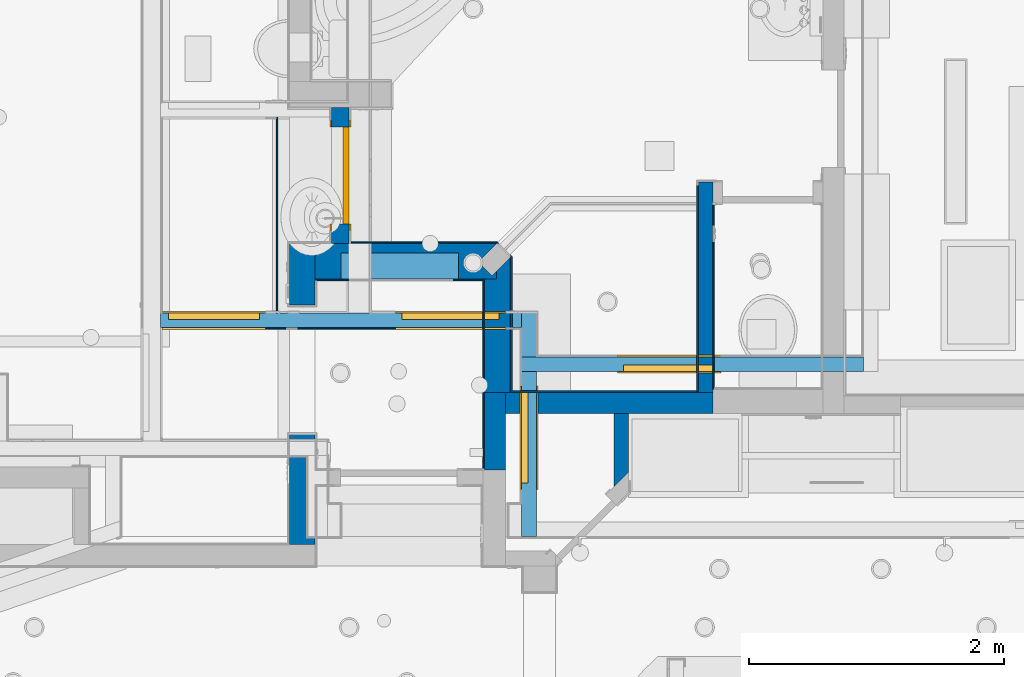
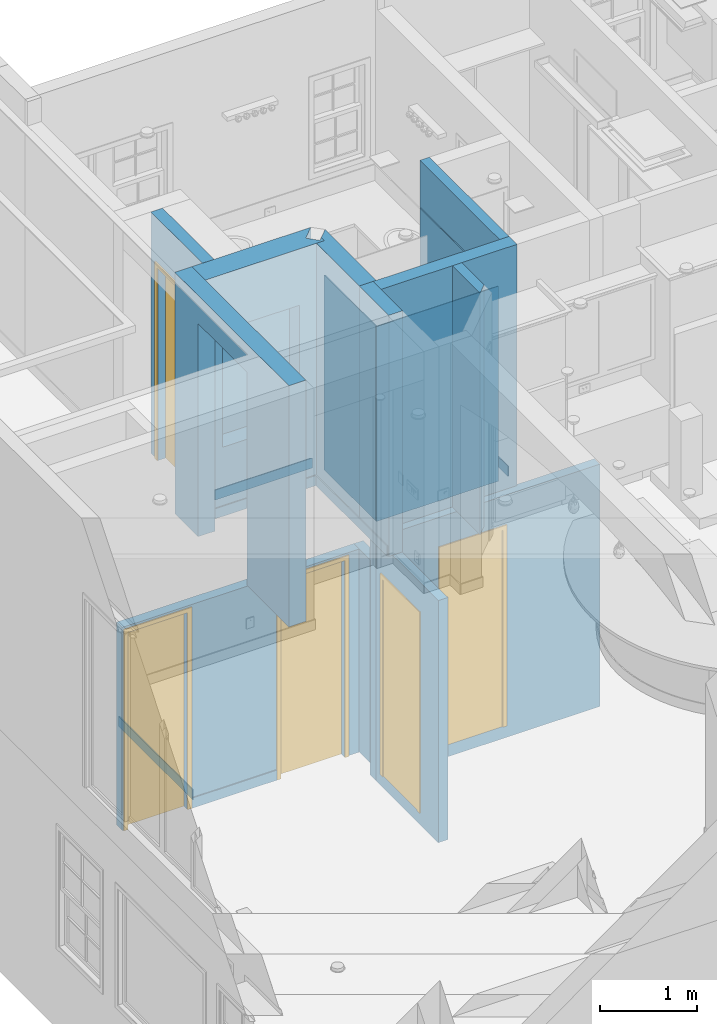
# One storey, part 9 of 81: 21 walls, 5 doors, 7 openings.
"""IFC2X3 building model written with IfcOpenShell, lengths in feet."""

from ifc_helpers import new_model, entity, si_unit, converted_unit, derived_unit, direction, frame, frame_2d, origin, origin_2d_with_axis, place, context, subcontext, project, spatial, polyline, rectangle, outline, extrude, clip, bounded_halfspace, source, transform, mapped, material, material_list, layer, layer_set, layer_usage, type_object, type_shapes, element, fill, save


model = new_model("IFC2X3")

# Units and contexts
model_context = context("Model", 3, precision=0.0001, world=origin(), true_north=direction((6.12303176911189e-17, 1.0)))
body_context = subcontext(model_context, "Body", "Model", "MODEL_VIEW")
ifc_project = project(units=[converted_unit("LENGTHUNIT", "FOOT", entity("IfcRatioMeasure", 0.3048), si_unit("LENGTHUNIT", "METRE"), dimensions=[1, 0, 0, 0, 0, 0, 0]), converted_unit("AREAUNIT", "SQUARE FOOT", entity("IfcRatioMeasure", 0.09290304), si_unit("AREAUNIT", "SQUARE_METRE"), dimensions=[2, 0, 0, 0, 0, 0, 0]), converted_unit("VOLUMEUNIT", "CUBIC FOOT", entity("IfcRatioMeasure", 0.028316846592), si_unit("VOLUMEUNIT", "CUBIC_METRE"), dimensions=[3, 0, 0, 0, 0, 0, 0]), converted_unit("PLANEANGLEUNIT", "DEGREE", entity("IfcRatioMeasure", 0.0174532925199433), si_unit("PLANEANGLEUNIT", "RADIAN"), dimensions=[0, 0, 0, 0, 0, 0, 0]), si_unit("MASSUNIT", "GRAM", prefix="KILO"), derived_unit("MASSDENSITYUNIT", [(si_unit("MASSUNIT", "GRAM", prefix="KILO"), 1), (si_unit("LENGTHUNIT", "METRE"), -3)]), derived_unit("MOMENTOFINERTIAUNIT", [(si_unit("LENGTHUNIT", "METRE"), 4)]), si_unit("TIMEUNIT", "SECOND"), si_unit("FREQUENCYUNIT", "HERTZ"), si_unit("THERMODYNAMICTEMPERATUREUNIT", "DEGREE_CELSIUS"), derived_unit("THERMALTRANSMITTANCEUNIT", [(si_unit("MASSUNIT", "GRAM", prefix="KILO"), 1), (si_unit("THERMODYNAMICTEMPERATUREUNIT", "KELVIN"), -1), (si_unit("TIMEUNIT", "SECOND"), -3)]), derived_unit("VOLUMETRICFLOWRATEUNIT", [(si_unit("LENGTHUNIT", "METRE"), 3), (si_unit("TIMEUNIT", "SECOND"), -1)]), si_unit("ELECTRICCURRENTUNIT", "AMPERE"), si_unit("ELECTRICVOLTAGEUNIT", "VOLT"), si_unit("POWERUNIT", "WATT"), si_unit("FORCEUNIT", "NEWTON"), si_unit("ILLUMINANCEUNIT", "LUX"), si_unit("LUMINOUSFLUXUNIT", "LUMEN"), si_unit("LUMINOUSINTENSITYUNIT", "CANDELA"), derived_unit("USERDEFINED", [(si_unit("MASSUNIT", "GRAM", prefix="KILO"), -1), (si_unit("LENGTHUNIT", "METRE"), -2), (si_unit("TIMEUNIT", "SECOND"), 3), (si_unit("LUMINOUSFLUXUNIT", "LUMEN"), 1)]), derived_unit("LINEARVELOCITYUNIT", [(si_unit("LENGTHUNIT", "METRE"), 1), (si_unit("TIMEUNIT", "SECOND"), -1)]), si_unit("PRESSUREUNIT", "PASCAL"), derived_unit("USERDEFINED", [(si_unit("LENGTHUNIT", "METRE"), -2), (si_unit("MASSUNIT", "GRAM", prefix="KILO"), 1), (si_unit("TIMEUNIT", "SECOND"), -2)]), derived_unit("LINEARFORCEUNIT", [(si_unit("MASSUNIT", "GRAM", prefix="KILO"), 1), (si_unit("LENGTHUNIT", "METRE"), 1), (si_unit("TIMEUNIT", "SECOND"), -2), (si_unit("LENGTHUNIT", "METRE"), -1)]), derived_unit("PLANARFORCEUNIT", [(si_unit("MASSUNIT", "GRAM", prefix="KILO"), 1), (si_unit("LENGTHUNIT", "METRE"), 1), (si_unit("TIMEUNIT", "SECOND"), -2), (si_unit("LENGTHUNIT", "METRE"), -2)])], contexts=[model_context])

# Site, building, storey
site_placement = place(None, origin())
site = spatial("IfcSite", under=ifc_project, at=site_placement, Name="Default", CompositionType="ELEMENT")
building_placement = place(site_placement, origin())
building = spatial("IfcBuilding", under=site, at=building_placement, CompositionType="ELEMENT")
storey_placement = place(building_placement, origin())
storey = spatial("IfcBuildingStorey", under=building, at=storey_placement, Name="First floor", CompositionType="ELEMENT", Elevation=0.0)

# Walls
ifc_material = material(Name="Default New Material")
ifc_layer_1 = layer(ifc_material, 0.541666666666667)
ifc_layer_set_1 = layer_set([ifc_layer_1], Name="Basic Wall:Wall_6.5\"")
ifc_layer_usage_1 = layer_usage(ifc_layer_set_1, "AXIS2", "NEGATIVE", 0.270833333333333)
wall_type_1 = type_object("IfcWallType", Name="Basic Wall:Wall_6.5\"", PredefinedType="STANDARD", material=ifc_layer_set_1)
wall_1_placement = place(storey_placement, frame((-1.02083333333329, 31.5, 10.6666666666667), z_axis=(0.0, 0.0, 1.0), x_axis=(0.0, 1.0, 0.0)))
element("IfcWallStandardCase", 1, at=wall_1_placement, inside=storey, type_object=wall_type_1, material=ifc_layer_usage_1, Name="Basic Wall:Wall_6.5\"", ObjectType="Basic Wall:Wall_6.5\"", context=body_context, shape_type="SweptSolid", body=[
    extrude(rectangle(XDim=2.00000000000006, YDim=0.541666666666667, at=frame_2d((1.00000000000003, 5.55111512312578e-17), x_axis=(-1.0, 0.0))), origin(), (0.0, 0.0, 1.0), 10.0),
])
ifc_layer_usage_2 = layer_usage(ifc_layer_set_1, "AXIS2", "NEGATIVE", 0.270833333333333)
wall_2_placement = place(storey_placement, frame((-0.74999999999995, 33.2291666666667, 10.6666666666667)))
element("IfcWallStandardCase", 2, at=wall_2_placement, inside=storey, type_object=wall_type_1, material=ifc_layer_usage_2, Name="Basic Wall:Wall_6.5\"", ObjectType="Basic Wall:Wall_6.5\"", context=body_context, shape_type="SweptSolid", body=[
    extrude(rectangle(XDim=5.33333333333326, YDim=0.541666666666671, at=frame_2d((2.66666666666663, -5.27355936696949e-16), x_axis=(-1.0, 0.0))), origin(), (0.0, 0.0, 1.0), 10.0),
])

# Wall, opening
ifc_layer_2 = layer(ifc_material, 0.666666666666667)
ifc_layer_set_2 = layer_set([ifc_layer_2], Name="Basic Wall:Wall_8\"")
ifc_layer_usage_3 = layer_usage(ifc_layer_set_2, "AXIS2", "NEGATIVE", 0.333333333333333)
wall_type_2 = type_object("IfcWallType", Name="Basic Wall:Wall_8\"", PredefinedType="STANDARD", material=ifc_layer_set_2)
wall_3_placement = place(storey_placement, frame((-5.9791666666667, 29.5833333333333, 10.6666666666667), z_axis=(0.0, 0.0, 1.0), x_axis=(0.0, 1.0, 0.0)))
wall_3 = element("IfcWallStandardCase", 3, at=wall_3_placement, inside=storey, type_object=wall_type_2, material=ifc_layer_usage_3, Name="Basic Wall:Wall_8\"", ObjectType="Basic Wall:Wall_8\"", context=body_context, shape_type="SweptSolid", body=[
    extrude(rectangle(XDim=7.75000000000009, YDim=0.666666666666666, at=frame_2d((3.87500000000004, -1.66533453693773e-16), x_axis=(-1.0, 0.0))), origin(), (0.0, 0.0, 1.0), 10.0),
])
opening_1_placement = place(wall_3_placement, origin())
element("IfcOpeningElement", 4, at=opening_1_placement, cuts=wall_3, Name="Basic Wall:Wall_8\"", ObjectType="Opening", context=body_context, shape_type="SweptSolid", body=[
    extrude(rectangle(XDim=8.83333333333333, YDim=3.33333333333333, at=frame_2d((8.88178419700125e-16, 0.0), x_axis=(1.0, 0.0))), frame((4.50000000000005, -0.333333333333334, 4.41666666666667), z_axis=(0.0, 1.0, 0.0), x_axis=(0.0, 0.0, 1.0)), (0.0, 0.0, 1.0), 0.666666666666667),
])

# Walls
ifc_layer_usage_4 = layer_usage(ifc_layer_set_2, "AXIS2", "POSITIVE", -0.333333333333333)
wall_4_placement = place(storey_placement, frame((-0.9583333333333, 36.9791666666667, 10.6666666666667), z_axis=(0.0, 0.0, 1.0), x_axis=(0.0, -1.0, 0.0)))
element("IfcWallStandardCase", 5, at=wall_4_placement, inside=storey, type_object=wall_type_2, material=ifc_layer_usage_4, Name="Basic Wall:Wall_8\"", ObjectType="Basic Wall:Wall_8\"", context=body_context, shape_type="Clipping", body=[
    clip(clip(clip(extrude(rectangle(XDim=3.47916666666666, YDim=0.666666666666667, at=frame_2d((1.73958333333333, 0.0), x_axis=(-1.0, 0.0))), origin(), (0.0, 0.0, 1.0), 10.0), bounded_halfspace(frame((0.0, 0.333333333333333, 10.0), z_axis=(0.707106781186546, 0.707106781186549, 0.0), x_axis=(-0.707106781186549, 0.707106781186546, 0.0)), True, frame((0.0, 0.333333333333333, 10.0), z_axis=(0.707106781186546, 0.707106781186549, 0.0), x_axis=(-0.707106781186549, 0.707106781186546, 0.0)), polyline([(0.0, 0.0), (-0.500867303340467, 0.0), (-0.500867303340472, -10.0), (0.0, -10.0), (0.0, 0.0)]))), bounded_halfspace(frame((0.5625, -0.02083333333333, 10.0), z_axis=(1.0, 0.0, 0.0), x_axis=(0.0, 1.0, 0.0)), True, frame((0.5625, -0.02083333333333, 10.0), z_axis=(1.0, 0.0, 0.0), x_axis=(0.0, 1.0, 0.0)), polyline([(0.0, 0.0), (-0.312500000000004, 0.0), (-0.312500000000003, -10.0), (0.0, -10.0), (0.0, 0.0)]))), bounded_halfspace(frame((0.5625, -0.02083333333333, 0.0), z_axis=(0.0, 1.0, 0.0), x_axis=(-1.0, 0.0, 0.0)), True, frame((0.5625, -0.02083333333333, 0.0), z_axis=(0.0, 1.0, 0.0), x_axis=(-1.0, 0.0, 0.0)), polyline([(0.0, 0.0), (0.208333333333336, 0.0), (0.208333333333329, 10.0), (0.0, 10.0), (0.0, 0.0)]))),
])
ifc_layer_3 = layer(ifc_material, 0.375)
ifc_layer_set_3 = layer_set([ifc_layer_3], Name="Basic Wall:Wall_4.5\"")
ifc_layer_usage_5 = layer_usage(ifc_layer_set_3, "AXIS2", "NEGATIVE", 0.1875)
wall_type_3 = type_object("IfcWallType", Name="Basic Wall:Wall_4.5\"", PredefinedType="STANDARD", material=ifc_layer_set_3)
wall_5_placement = place(storey_placement, frame((2.22882952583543, 31.0716596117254, 10.6666666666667), z_axis=(0.0, 0.0, 1.0), x_axis=(0.0, 1.0, 0.0)))
element("IfcWallStandardCase", 6, at=wall_5_placement, inside=storey, type_object=wall_type_3, material=ifc_layer_usage_5, Name="Basic Wall:Wall_4.5\"", ObjectType="Basic Wall:Wall_4.5\"", context=body_context, shape_type="SweptSolid", body=[
    extrude(outline(polyline([(1.88667372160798, -0.1875), (1.88667372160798, 0.1875), (0.0, 0.1875), (0.375, -0.1875), (1.88667372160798, -0.1875)])), origin(), (0.0, 0.0, 1.0), 10.0),
])
ifc_layer_usage_6 = layer_usage(ifc_layer_set_3, "AXIS2", "POSITIVE", -0.1875)
wall_6_placement = place(storey_placement, frame((4.39583333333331, 33.5, 10.6666666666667), z_axis=(0.0, 0.0, 1.0), x_axis=(0.0, 1.0, 0.0)))
element("IfcWallStandardCase", 7, at=wall_6_placement, inside=storey, type_object=wall_type_3, material=ifc_layer_usage_6, Name="Basic Wall:Wall_4.5\"", ObjectType="Basic Wall:Wall_4.5\"", context=body_context, shape_type="SweptSolid", body=[
    extrude(rectangle(XDim=5.4163215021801, YDim=0.375, at=frame_2d((2.70816075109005, 0.0), x_axis=(-1.0, 0.0))), origin(), (0.0, 0.0, 1.0), 10.0),
])

# Wall, opening, door
ifc_layer_usage_7 = layer_usage(ifc_layer_set_3, "AXIS2", "NEGATIVE", 0.1875)
wall_7_placement = place(storey_placement, frame((8.45833333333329, 34.2291666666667, -0.5), z_axis=(0.0, 0.0, 1.0), x_axis=(-1.0, 0.0, 0.0)))
wall_7 = element("IfcWallStandardCase", 8, at=wall_7_placement, inside=storey, type_object=wall_type_3, material=ifc_layer_usage_7, Name="Basic Wall:Wall_4.5\"", ObjectType="Basic Wall:Wall_4.5\"", context=body_context, shape_type="SweptSolid", body=[
    extrude(rectangle(XDim=8.79166666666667, YDim=0.375, at=frame_2d((4.39583333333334, 0.0), x_axis=(-1.0, 0.0))), origin(), (0.0, 0.0, 1.0), 10.0416666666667),
])
opening_2_placement = place(wall_7_placement, frame((3.83333333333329, -0.187500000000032, 0.5)))
opening_2 = element("IfcOpeningElement", 9, at=opening_2_placement, cuts=wall_7, Name="Door_1:2'-4\" X 8'-2\":1", ObjectType="Opening", context=body_context, shape_type="SweptSolid", body=[
    extrude(rectangle(XDim=2.33333333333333, YDim=8.16666666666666, at=frame_2d((4.08333333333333, 1.16666666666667), x_axis=(0.0, 1.0))), frame((0.0, 0.0, 0.0), z_axis=(0.0, 1.0, 0.0), x_axis=(0.0, 0.0, 1.0)), (0.0, 0.0, 1.0), 0.375),
])
ifc_material_list_1 = material_list([ifc_material, ifc_material])
door_style_1 = type_object("IfcDoorStyle", Name="Door_1:2'-4\" X 8'-2\"", ConstructionType="NOTDEFINED", OperationType="SINGLE_SWING_RIGHT", ParameterTakesPrecedence=False, Sizeable=False, material=ifc_material_list_1)
shared_shape_1 = source(origin(), body_context, "Body", "SweptSolid", [
    extrude(outline(polyline([(-1.33333333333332, -4.20833333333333), (1.3333333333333, -4.20833333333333), (1.3333333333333, 4.125), (1.16666666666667, 4.125), (1.16666666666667, -4.04166666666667), (-1.16666666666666, -4.04166666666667), (-1.16666666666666, 4.125), (-1.33333333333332, 4.125), (-1.33333333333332, -4.20833333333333)])), frame((1.16666666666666, 0.374999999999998, 4.125), z_axis=(0.0, 1.0, 0.0), x_axis=(1.0, 0.0, 0.0)), (0.0, 0.0, 1.0), 0.0416666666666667),
    extrude(outline(polyline([(-4.20833333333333, -1.33333333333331), (4.125, -1.33333333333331), (4.125, -1.16666666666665), (-4.04166666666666, -1.16666666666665), (-4.04166666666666, 1.16666666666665), (4.125, 1.16666666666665), (4.125, 1.33333333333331), (-4.20833333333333, 1.33333333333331), (-4.20833333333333, -1.33333333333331)])), frame((1.16666666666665, -0.0416666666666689, 4.125), z_axis=(0.0, 1.0, 0.0), x_axis=(0.0, 0.0, -1.0)), (0.0, 0.0, 1.0), 0.0416666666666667),
    extrude(rectangle(XDim=0.166666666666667, YDim=2.33333333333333, at=origin_2d_with_axis()), frame((1.16666666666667, 0.291666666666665, 0.0), z_axis=(0.0, 0.0, 1.0), x_axis=(0.0, 1.0, 0.0)), (0.0, 0.0, 1.0), 8.16666666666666),
])
type_shapes(door_style_1, [shared_shape_1])
door_1_placement = place(opening_2_placement, origin())
door_1 = element("IfcDoor", 10, at=door_1_placement, inside=storey, type_object=door_style_1, material=ifc_material, Name="Door_1:2'-4\" X 8'-2\"", ObjectType="Door_1:2'-4\" X 8'-2\"", OverallHeight=8.16666666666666, OverallWidth=2.33333333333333, context=body_context, shape_type="MappedRepresentation", body=[
    mapped(shared_shape_1, transform((0.0, 0.0, 0.0), scale=1.0)),
])
fill(opening_2, door_1)

ifc_layer_usage_8 = layer_usage(ifc_layer_set_3, "AXIS2", "NEGATIVE", 0.1875)
wall_8_placement = place(storey_placement, frame((-0.145833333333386, 34.0416666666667, -0.5), z_axis=(0.0, 0.0, 1.0), x_axis=(0.0, -1.0, 0.0)))
wall_8 = element("IfcWallStandardCase", 11, at=wall_8_placement, inside=storey, type_object=wall_type_3, material=ifc_layer_usage_8, Name="Basic Wall:Wall_4.5\"", ObjectType="Basic Wall:Wall_4.5\"", context=body_context, shape_type="SweptSolid", body=[
    extrude(rectangle(XDim=4.25000000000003, YDim=0.375, at=frame_2d((2.12500000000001, 1.38777878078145e-17), x_axis=(-1.0, 0.0))), origin(), (0.0, 0.0, 1.0), 10.0416666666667),
])
opening_3_placement = place(wall_8_placement, frame((2.87500000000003, 0.187500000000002, 0.5)))
opening_3 = element("IfcOpeningElement", 12, at=opening_3_placement, cuts=wall_8, Name="Door_1:2'-4\" X 8'-2\":1", ObjectType="Opening", context=body_context, shape_type="SweptSolid", body=[
    extrude(rectangle(XDim=2.33333333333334, YDim=8.16666666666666, at=frame_2d((4.08333333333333, 1.16666666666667), x_axis=(0.0, -1.0))), frame((0.0, 0.0, 0.0), z_axis=(0.0, -1.0, 0.0), x_axis=(0.0, 0.0, 1.0)), (0.0, 0.0, 1.0), 0.375),
])
ifc_material_list_2 = material_list([ifc_material, ifc_material])
door_style_2 = type_object("IfcDoorStyle", Name="Door_1:2'-4\" X 8'-2\"", ConstructionType="NOTDEFINED", OperationType="SINGLE_SWING_LEFT", ParameterTakesPrecedence=False, Sizeable=False, material=ifc_material_list_2)
shared_shape_2 = source(origin(), body_context, "Body", "SweptSolid", [
    extrude(outline(polyline([(-1.33333333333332, -4.20833333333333), (1.3333333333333, -4.20833333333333), (1.3333333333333, 4.125), (1.16666666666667, 4.125), (1.16666666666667, -4.04166666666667), (-1.16666666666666, -4.04166666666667), (-1.16666666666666, 4.125), (-1.33333333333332, 4.125), (-1.33333333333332, -4.20833333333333)])), frame((1.16666666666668, 0.416666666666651, 4.125), z_axis=(0.0, -1.0, 0.0), x_axis=(-1.0, 0.0, 0.0)), (0.0, 0.0, 1.0), 0.0416666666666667),
    extrude(outline(polyline([(-4.20833333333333, -1.33333333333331), (4.125, -1.33333333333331), (4.125, -1.16666666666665), (-4.04166666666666, -1.16666666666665), (-4.04166666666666, 1.16666666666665), (4.125, 1.16666666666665), (4.125, 1.33333333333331), (-4.20833333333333, 1.33333333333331), (-4.20833333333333, -1.33333333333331)])), frame((1.16666666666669, 0.0, 4.125), z_axis=(0.0, -1.0, 0.0), x_axis=(0.0, 0.0, -1.0)), (0.0, 0.0, 1.0), 0.0416666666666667),
    extrude(rectangle(XDim=2.33333333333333, YDim=0.166666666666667, at=origin_2d_with_axis()), frame((1.16666666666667, 0.291666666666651, 0.0)), (0.0, 0.0, 1.0), 8.16666666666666),
])
type_shapes(door_style_2, [shared_shape_2])
door_2_placement = place(opening_3_placement, frame((0.0, 0.0, 0.0), z_axis=(0.0, 0.0, 1.0), x_axis=(-1.0, 0.0, 0.0)))
door_2 = element("IfcDoor", 13, at=door_2_placement, inside=storey, type_object=door_style_2, material=ifc_material, Name="Door_1:2'-4\" X 8'-2\"", ObjectType="Door_1:2'-4\" X 8'-2\"", OverallHeight=8.16666666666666, OverallWidth=2.33333333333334, context=body_context, shape_type="MappedRepresentation", body=[
    mapped(shared_shape_2, transform((0.0, 0.0, 0.0), scale=1.0)),
])
fill(opening_3, door_2)

# Wall
ifc_layer_usage_9 = layer_usage(ifc_layer_set_3, "AXIS2", "NEGATIVE", 0.1875)
wall_9_placement = place(storey_placement, frame((-0.145833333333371, 34.4166666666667, 0.0), z_axis=(0.0, 0.0, 1.0), x_axis=(0.0, 1.0, 0.0)))
element("IfcWallStandardCase", 14, at=wall_9_placement, inside=storey, type_object=wall_type_3, material=ifc_layer_usage_9, Name="Basic Wall:Wall_4.5\"", ObjectType="Basic Wall:Wall_4.5\"", context=body_context, shape_type="SweptSolid", body=[
    extrude(rectangle(XDim=1.12499999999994, YDim=0.375, at=frame_2d((0.562499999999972, 0.0), x_axis=(-1.0, 0.0))), origin(), (0.0, 0.0, 1.0), 8.41666666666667),
])

# Wall, openings, doors
ifc_layer_usage_10 = layer_usage(ifc_layer_set_3, "AXIS2", "NEGATIVE", 0.1875)
wall_10_placement = place(storey_placement, frame((-0.333333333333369, 35.3541666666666, 0.0), z_axis=(0.0, 0.0, 1.0), x_axis=(-1.0, 0.0, 0.0)))
wall_10 = element("IfcWallStandardCase", 15, at=wall_10_placement, inside=storey, type_object=wall_type_3, material=ifc_layer_usage_10, Name="Basic Wall:Wall_4.5\"", ObjectType="Basic Wall:Wall_4.5\"", context=body_context, shape_type="SweptSolid", body=[
    extrude(rectangle(XDim=9.29166666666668, YDim=0.375, at=frame_2d((4.64583333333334, -5.55111512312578e-16), x_axis=(-1.0, 0.0))), origin(), (0.0, 0.0, 1.0), 8.41666666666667),
])
opening_4_placement = place(wall_10_placement, frame((3.0833333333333, 0.187500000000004, 0.0)))
opening_4 = element("IfcOpeningElement", 16, at=opening_4_placement, cuts=wall_10, Name="Door_1:2'-6\" X 8'-2\":1", ObjectType="Opening", context=body_context, shape_type="SweptSolid", body=[
    extrude(rectangle(XDim=2.5, YDim=8.16666666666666, at=frame_2d((4.08333333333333, 1.25), x_axis=(0.0, -1.0))), frame((0.0, 0.0, 0.0), z_axis=(0.0, -1.0, 0.0), x_axis=(0.0, 0.0, 1.0)), (0.0, 0.0, 1.0), 0.375),
])
opening_5_placement = place(wall_10_placement, frame((9.0833333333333, 0.187499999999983, 0.0)))
opening_5 = element("IfcOpeningElement", 17, at=opening_5_placement, cuts=wall_10, Name="Door_1:2'-4\" X 8'-2\":1", ObjectType="Opening", context=body_context, shape_type="SweptSolid", body=[
    extrude(rectangle(XDim=2.33333333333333, YDim=8.16666666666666, at=frame_2d((4.08333333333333, 1.16666666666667), x_axis=(0.0, -1.0))), frame((0.0, 0.0, 0.0), z_axis=(0.0, -1.0, 0.0), x_axis=(0.0, 0.0, 1.0)), (0.0, 0.0, 1.0), 0.375),
])
door_3_placement = place(opening_5_placement, frame((0.0, 0.0, 0.0), z_axis=(0.0, 0.0, 1.0), x_axis=(-1.0, 0.0, 0.0)))
door_3 = element("IfcDoor", 18, at=door_3_placement, inside=storey, type_object=door_style_2, material=ifc_material, Name="Door_1:2'-4\" X 8'-2\"", ObjectType="Door_1:2'-4\" X 8'-2\"", OverallHeight=8.16666666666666, OverallWidth=2.33333333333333, context=body_context, shape_type="MappedRepresentation", body=[
    mapped(shared_shape_2, transform((0.0, 0.0, 0.0), scale=1.0)),
])
fill(opening_5, door_3)
ifc_material_list_3 = material_list([ifc_material, ifc_material])
door_style_3 = type_object("IfcDoorStyle", Name="Door_1:2'-6\" X 8'-2\"", ConstructionType="NOTDEFINED", OperationType="SINGLE_SWING_LEFT", ParameterTakesPrecedence=False, Sizeable=False, material=ifc_material_list_3)
shared_shape_3 = source(origin(), body_context, "Body", "SweptSolid", [
    extrude(outline(polyline([(-1.41666666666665, -4.20833333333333), (1.41666666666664, -4.20833333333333), (1.41666666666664, 4.125), (1.25000000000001, 4.125), (1.25000000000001, -4.04166666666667), (-1.24999999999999, -4.04166666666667), (-1.24999999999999, 4.125), (-1.41666666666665, 4.125), (-1.41666666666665, -4.20833333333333)])), frame((1.25000000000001, 0.416666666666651, 4.125), z_axis=(0.0, -1.0, 0.0), x_axis=(-1.0, 0.0, 0.0)), (0.0, 0.0, 1.0), 0.0416666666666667),
    extrude(outline(polyline([(-4.20833333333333, -1.41666666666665), (4.125, -1.41666666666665), (4.125, -1.24999999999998), (-4.04166666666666, -1.24999999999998), (-4.04166666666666, 1.24999999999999), (4.125, 1.24999999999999), (4.125, 1.41666666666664), (-4.20833333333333, 1.41666666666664), (-4.20833333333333, -1.41666666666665)])), frame((1.25000000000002, 0.0, 4.125), z_axis=(0.0, -1.0, 0.0), x_axis=(0.0, 0.0, -1.0)), (0.0, 0.0, 1.0), 0.0416666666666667),
    extrude(rectangle(XDim=2.5, YDim=0.166666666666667, at=origin_2d_with_axis()), frame((1.25, 0.291666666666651, 0.0)), (0.0, 0.0, 1.0), 8.16666666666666),
])
type_shapes(door_style_3, [shared_shape_3])
door_4_placement = place(opening_4_placement, frame((0.0, 0.0, 0.0), z_axis=(0.0, 0.0, 1.0), x_axis=(-1.0, 0.0, 0.0)))
door_4 = element("IfcDoor", 19, at=door_4_placement, inside=storey, type_object=door_style_3, material=ifc_material, Name="Door_1:2'-6\" X 8'-2\"", ObjectType="Door_1:2'-6\" X 8'-2\"", OverallHeight=8.16666666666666, OverallWidth=2.5, context=body_context, shape_type="MappedRepresentation", body=[
    mapped(shared_shape_3, transform((0.0, 0.0, 0.0), scale=1.0)),
])
fill(opening_4, door_4)

# Wall, opening, door
ifc_layer_4 = layer(ifc_material, 0.458333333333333)
ifc_layer_set_4 = layer_set([ifc_layer_4], Name="Basic Wall:Wall_5.5\"")
ifc_layer_usage_11 = layer_usage(ifc_layer_set_4, "AXIS2", "POSITIVE", -0.229166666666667)
wall_type_4 = type_object("IfcWallType", Name="Basic Wall:Wall_5.5\"", PredefinedType="STANDARD", material=ifc_layer_set_4)
wall_11_placement = place(storey_placement, frame((-5.0, 37.3333333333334, 10.6666666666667), z_axis=(0.0, 0.0, 1.0), x_axis=(0.0, 1.0, 0.0)))
wall_11 = element("IfcWallStandardCase", 20, at=wall_11_placement, inside=storey, type_object=wall_type_4, material=ifc_layer_usage_11, Name="Basic Wall:Wall_5.5\"", ObjectType="Basic Wall:Wall_5.5\"", context=body_context, shape_type="SweptSolid", body=[
    extrude(rectangle(XDim=3.49965483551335, YDim=0.458333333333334, at=frame_2d((1.74982741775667, 0.0), x_axis=(-1.0, 0.0))), origin(), (0.0, 0.0, 1.0), 10.0),
])
opening_6_placement = place(wall_11_placement, frame((2.99965483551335, 0.229166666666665, 0.0)))
opening_6 = element("IfcOpeningElement", 21, at=opening_6_placement, cuts=wall_11, Name="Door_1:2'-6\" X 8'-0\":1", ObjectType="Opening", context=body_context, shape_type="SweptSolid", body=[
    extrude(rectangle(XDim=2.5, YDim=8.0, at=frame_2d((4.0, 1.25), x_axis=(0.0, 1.0))), frame((0.0, 0.0, 0.0), z_axis=(0.0, -1.0, 0.0), x_axis=(0.0, 0.0, 1.0)), (0.0, 0.0, 1.0), 0.458333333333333),
])
ifc_material_list_4 = material_list([ifc_material, ifc_material])
door_style_4 = type_object("IfcDoorStyle", Name="Door_1:2'-6\" X 8'-0\"", ConstructionType="NOTDEFINED", OperationType="SINGLE_SWING_RIGHT", ParameterTakesPrecedence=False, Sizeable=False, material=ifc_material_list_4)
shared_shape_4 = source(origin(), body_context, "Body", "SweptSolid", [
    extrude(outline(polyline([(-1.41666666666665, -4.125), (1.41666666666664, -4.125), (1.41666666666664, 4.04166666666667), (1.25000000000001, 4.04166666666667), (1.25000000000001, -3.95833333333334), (-1.24999999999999, -3.95833333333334), (-1.24999999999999, 4.04166666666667), (-1.41666666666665, 4.04166666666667), (-1.41666666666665, -4.125)])), frame((1.24999999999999, 0.458333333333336, 4.04166666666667), z_axis=(0.0, 1.0, 0.0), x_axis=(1.0, 0.0, 0.0)), (0.0, 0.0, 1.0), 0.0416666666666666),
    extrude(outline(polyline([(-4.125, -1.41666666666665), (4.04166666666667, -1.41666666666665), (4.04166666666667, -1.24999999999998), (-3.95833333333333, -1.24999999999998), (-3.95833333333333, 1.24999999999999), (4.04166666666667, 1.24999999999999), (4.04166666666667, 1.41666666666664), (-4.125, 1.41666666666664), (-4.125, -1.41666666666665)])), frame((1.24999999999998, -0.0416666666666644, 4.04166666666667), z_axis=(0.0, 1.0, 0.0), x_axis=(0.0, 0.0, -1.0)), (0.0, 0.0, 1.0), 0.0416666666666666),
    extrude(rectangle(XDim=0.166666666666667, YDim=2.5, at=frame_2d((-2.77555756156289e-17, 0.0), x_axis=(1.0, 0.0))), frame((1.25, 0.375000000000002, 0.0), z_axis=(0.0, 0.0, 1.0), x_axis=(0.0, 1.0, 0.0)), (0.0, 0.0, 1.0), 8.0),
])
type_shapes(door_style_4, [shared_shape_4])
door_5_placement = place(opening_6_placement, frame((0.0, 0.0, 0.0), z_axis=(0.0, 0.0, 1.0), x_axis=(-1.0, 0.0, 0.0)))
door_5 = element("IfcDoor", 22, at=door_5_placement, inside=storey, type_object=door_style_4, material=ifc_material, Name="Door_1:2'-6\" X 8'-0\"", ObjectType="Door_1:2'-6\" X 8'-0\"", OverallHeight=8.0, OverallWidth=2.5, context=body_context, shape_type="MappedRepresentation", body=[
    mapped(shared_shape_4, transform((0.0, 0.0, 0.0), scale=1.0)),
])
fill(opening_6, door_5)

# Wall, opening
ifc_layer_5 = layer(ifc_material, 0.916666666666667)
ifc_layer_set_5 = layer_set([ifc_layer_5], Name="Basic Wall:Wall_11\"")
ifc_layer_usage_12 = layer_usage(ifc_layer_set_5, "AXIS2", "NEGATIVE", 0.458333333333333)
wall_type_5 = type_object("IfcWallType", Name="Basic Wall:Wall_11\"", PredefinedType="STANDARD", material=ifc_layer_set_5)
wall_12_placement = place(storey_placement, frame((-5.64583333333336, 36.875, 10.6666666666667)))
wall_12 = element("IfcWallStandardCase", 23, at=wall_12_placement, inside=storey, type_object=wall_type_5, material=ifc_layer_usage_12, Name="Basic Wall:Wall_11\"", ObjectType="Basic Wall:Wall_11\"", context=body_context, shape_type="Clipping", body=[
    clip(extrude(rectangle(XDim=4.66666666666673, YDim=0.916666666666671, at=frame_2d((2.33333333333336, -4.71844785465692e-16), x_axis=(-1.0, 0.0))), origin(), (0.0, 0.0, 1.0), 10.0), bounded_halfspace(frame((4.54942881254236, -0.367237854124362, 10.0), z_axis=(-0.707106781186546, -0.707106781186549, 0.0), x_axis=(0.707106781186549, -0.707106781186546, 0.0)), True, frame((4.54942881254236, -0.367237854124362, 10.0), z_axis=(-0.707106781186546, -0.707106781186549, 0.0), x_axis=(0.707106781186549, -0.707106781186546, 0.0)), polyline([(0.0, 0.0), (-0.500867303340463, 0.0), (-0.500867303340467, -10.0), (0.0, -10.0), (0.0, 0.0)]))),
])
opening_7_placement = place(wall_12_placement, origin())
element("IfcOpeningElement", 24, at=opening_7_placement, cuts=wall_12, Name="Basic Wall:Wall_11\"", ObjectType="Recess", context=body_context, shape_type="SweptSolid", body=[
    extrude(rectangle(XDim=4.83333333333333, YDim=3.02083333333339, at=frame_2d((-4.44089209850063e-16, 0.0), x_axis=(0.0, 1.0))), frame((2.17708333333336, -0.458333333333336, 5.25), z_axis=(0.0, 1.0, 0.0), x_axis=(1.0, 0.0, 0.0)), (0.0, 0.0, 1.0), 0.666666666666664),
])

# Walls
ifc_layer_6 = layer(ifc_material, 0.0416666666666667)
ifc_layer_set_6 = layer_set([ifc_layer_6], Name="Basic Wall:Wall Border_T1")
ifc_layer_usage_13 = layer_usage(ifc_layer_set_6, "AXIS2", "POSITIVE", -0.0208333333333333)
wall_type_6 = type_object("IfcWallType", Name="Basic Wall:Wall Border_T1", PredefinedType="STANDARD", material=ifc_layer_set_6)
wall_13_placement = place(storey_placement, frame((-6.62499999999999, 40.5833333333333, 0.0), z_axis=(0.0, 0.0, 1.0), x_axis=(0.0, -1.0, 0.0)))
element("IfcWallStandardCase", 25, at=wall_13_placement, inside=storey, type_object=wall_type_6, material=ifc_layer_usage_13, Name="Basic Wall:Wall Border_T1", ObjectType="Basic Wall:Wall Border_T1", context=body_context, shape_type="SweptSolid", body=[
    extrude(rectangle(XDim=5.04166666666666, YDim=0.0416666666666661, at=frame_2d((2.52083333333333, 0.0), x_axis=(-1.0, 0.0))), origin(), (0.0, 0.0, 1.0), 0.416666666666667),
])
ifc_layer_usage_14 = layer_usage(ifc_layer_set_6, "AXIS2", "NEGATIVE", 0.0208333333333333)
wall_14_placement = place(storey_placement, frame((-6.91666666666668, 35.1458333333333, 0.0)))
element("IfcWallStandardCase", 26, at=wall_14_placement, inside=storey, type_object=wall_type_6, material=ifc_layer_usage_14, Name="Basic Wall:Wall Border_T1", ObjectType="Basic Wall:Wall Border_T1", context=body_context, shape_type="SweptSolid", body=[
    extrude(rectangle(XDim=3.33333333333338, YDim=0.0416666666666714, at=frame_2d((1.66666666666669, 0.0), x_axis=(-1.0, 0.0))), origin(), (0.0, 0.0, 1.0), 0.416666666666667),
])
ifc_layer_usage_15 = layer_usage(ifc_layer_set_6, "AXIS2", "NEGATIVE", 0.0208333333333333)
wall_15_placement = place(storey_placement, frame((-1.31249999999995, 31.5416666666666, 10.6666666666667), z_axis=(0.0, 0.0, 1.0), x_axis=(0.0, 1.0, 0.0)))
element("IfcWallStandardCase", 27, at=wall_15_placement, inside=storey, type_object=wall_type_6, material=ifc_layer_usage_15, Name="Basic Wall:Wall Border_T1", ObjectType="Basic Wall:Wall Border_T1", context=body_context, shape_type="SweptSolid", body=[
    extrude(rectangle(XDim=4.87499999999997, YDim=0.0416666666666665, at=frame_2d((2.43749999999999, 0.0), x_axis=(-1.0, 0.0))), origin(), (0.0, 0.0, 1.0), 0.416666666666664),
])
ifc_layer_usage_16 = layer_usage(ifc_layer_set_6, "AXIS2", "NEGATIVE", 0.0208333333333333)
wall_16_placement = place(storey_placement, frame((-1.33333333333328, 36.3958333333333, 10.6666666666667), z_axis=(0.0, 0.0, 1.0), x_axis=(-1.0, 0.0, 0.0)))
element("IfcWallStandardCase", 28, at=wall_16_placement, inside=storey, type_object=wall_type_6, material=ifc_layer_usage_16, Name="Basic Wall:Wall Border_T1", ObjectType="Basic Wall:Wall Border_T1", context=body_context, shape_type="SweptSolid", body=[
    extrude(rectangle(XDim=4.31250000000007, YDim=0.0416666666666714, at=frame_2d((2.15625000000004, -6.80011602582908e-16), x_axis=(-1.0, 0.0))), origin(), (0.0, 0.0, 1.0), 0.416666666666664),
])
ifc_layer_usage_17 = layer_usage(ifc_layer_set_6, "AXIS2", "NEGATIVE", 0.0208333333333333)
wall_17_placement = place(storey_placement, frame((-4.72916666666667, 37.3541666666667, 10.6666666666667)))
element("IfcWallStandardCase", 29, at=wall_17_placement, inside=storey, type_object=wall_type_6, material=ifc_layer_usage_17, Name="Basic Wall:Wall Border_T1", ObjectType="Basic Wall:Wall Border_T1", context=body_context, shape_type="SweptSolid", body=[
    extrude(outline(polyline([(3.80892556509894, -0.0208333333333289), (3.76725889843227, 0.0208333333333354), (0.0, 0.0208333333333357), (0.0, -0.0208333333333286), (3.75000000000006, -0.0208333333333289), (3.80892556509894, -0.0208333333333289)])), origin(), (0.0, 0.0, 1.0), 0.416666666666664),
])
ifc_layer_usage_18 = layer_usage(ifc_layer_set_6, "AXIS2", "NEGATIVE", 0.0208333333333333)
wall_18_placement = place(storey_placement, frame((4.18749999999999, 38.8333333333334, 10.6666666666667), z_axis=(0.0, 0.0, 1.0), x_axis=(0.0, -1.0, 0.0)))
element("IfcWallStandardCase", 30, at=wall_18_placement, inside=storey, type_object=wall_type_6, material=ifc_layer_usage_18, Name="Basic Wall:Wall Border_T1", ObjectType="Basic Wall:Wall Border_T1", context=body_context, shape_type="SweptSolid", body=[
    extrude(rectangle(XDim=5.33333333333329, YDim=0.0416666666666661, at=frame_2d((2.66666666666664, -2.02962646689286e-16), x_axis=(-1.0, 0.0))), origin(), (0.0, 0.0, 1.0), 8.08333333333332),
])
ifc_layer_usage_19 = layer_usage(ifc_layer_set_6, "AXIS2", "NEGATIVE", 0.0208333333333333)
wall_19_placement = place(storey_placement, frame((4.16666666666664, 33.5208333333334, 10.6666666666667), z_axis=(0.0, 0.0, 1.0), x_axis=(-1.0, 0.0, 0.0)))
element("IfcWallStandardCase", 31, at=wall_19_placement, inside=storey, type_object=wall_type_6, material=ifc_layer_usage_19, Name="Basic Wall:Wall Border_T1", ObjectType="Basic Wall:Wall Border_T1", context=body_context, shape_type="SweptSolid", body=[
    extrude(rectangle(XDim=4.79166666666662, YDim=0.0416666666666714, at=frame_2d((2.39583333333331, -2.468511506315e-15), x_axis=(-1.0, 0.0))), origin(), (0.0, 0.0, 1.0), 8.08333333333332),
])
ifc_layer_usage_20 = layer_usage(ifc_layer_set_6, "AXIS2", "NEGATIVE", 0.0208333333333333)
wall_20_placement = place(storey_placement, frame((-0.604166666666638, 33.5416666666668, 10.6666666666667), z_axis=(0.0, 0.0, 1.0), x_axis=(0.0, 1.0, 0.0)))
element("IfcWallStandardCase", 32, at=wall_20_placement, inside=storey, type_object=wall_type_6, material=ifc_layer_usage_20, Name="Basic Wall:Wall Border_T1", ObjectType="Basic Wall:Wall Border_T1", context=body_context, shape_type="SweptSolid", body=[
    extrude(outline(polyline([(3.45475889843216, -0.0208333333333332), (3.49642556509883, 0.0208333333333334), (3.43749999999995, 0.0208333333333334), (0.0, 0.0208333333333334), (0.0, -0.0208333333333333), (3.45475889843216, -0.0208333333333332)])), origin(), (0.0, 0.0, 1.0), 8.08333333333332),
])
ifc_layer_usage_21 = layer_usage(ifc_layer_set_6, "AXIS2", "NEGATIVE", 0.0208333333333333)
wall_21_placement = place(storey_placement, frame((4.60416666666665, 38.3329881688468, 10.6666666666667), z_axis=(0.0, 0.0, 1.0), x_axis=(0.0, -1.0, 0.0)))
element("IfcWallStandardCase", 33, at=wall_21_placement, inside=storey, type_object=wall_type_6, material=ifc_layer_usage_21, Name="Basic Wall:Wall Border_T1", ObjectType="Basic Wall:Wall Border_T1", context=body_context, shape_type="SweptSolid", body=[
    extrude(rectangle(XDim=4.74965483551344, YDim=0.0416666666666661, at=frame_2d((2.37482741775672, 0.0), x_axis=(-1.0, 0.0))), origin(), (0.0, 0.0, 1.0), 0.416666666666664),
])

save(model, "model.ifc")
